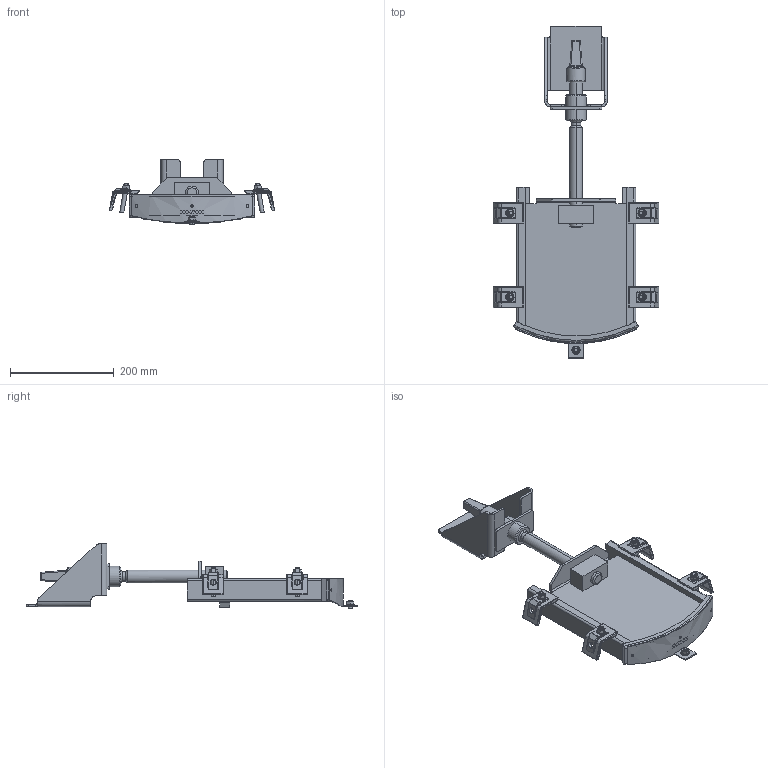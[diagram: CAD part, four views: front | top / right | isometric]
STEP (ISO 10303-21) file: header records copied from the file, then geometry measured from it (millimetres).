
FILE_DESCRIPTION (( 'STEP AP214' ), '1' );
FILE_NAME ('LW 150 Schacht1000 geschr..STEP', '2022-05-19T08:16:18', ( '' ), ( '' ), 'SwSTEP 2.0', 'SolidWorks 2021', '' );
FILE_SCHEMA (( 'AUTOMOTIVE_DESIGN' ));
Length unit declared in the file: millimetre
Products named in the file (1): LW 150 Schacht1000 geschr.
Bounding box: 319.46 x 640 x 124.04 mm (x, y, z)
Volume: 1540069.5 mm3; surface area: 435421.2 mm2
Topology: 1 solids, 5 shells, 998 faces, 2438 edges, 1429 vertices
Faces by surface type: cylinder 325, plane 267, bspline 214, cone 76, sphere 60, torus 56
Entity records: 50751 total; most frequent: CARTESIAN_POINT 18397, ORIENTED_EDGE 4756, DIRECTION 3983, EDGE_CURVE 2378, AXIS2_PLACEMENT_3D 1555, VERTEX_POINT 1421, EDGE_LOOP 1057, UNCERTAINTY_MEASURE_WITH_UNIT 1001
